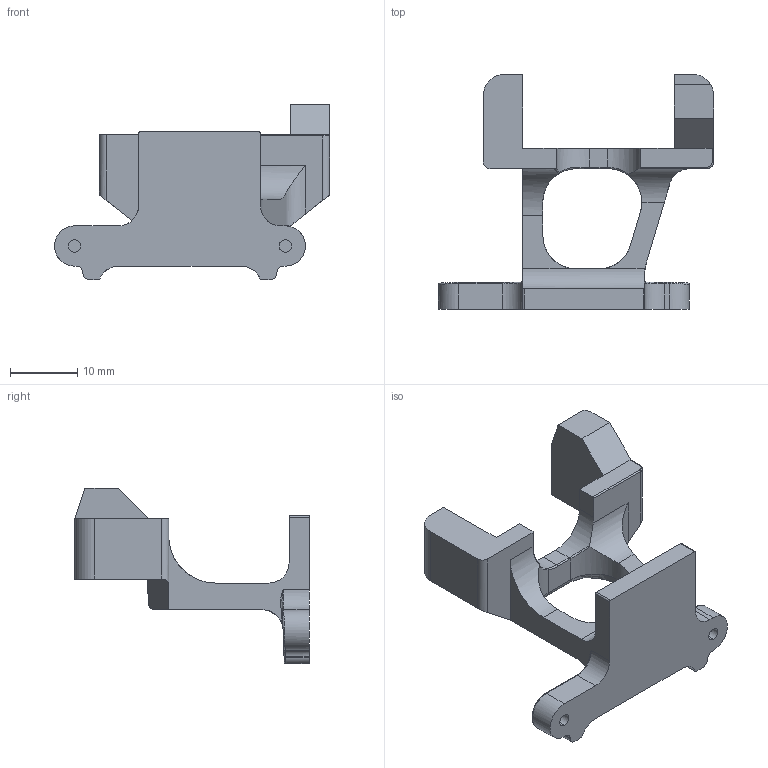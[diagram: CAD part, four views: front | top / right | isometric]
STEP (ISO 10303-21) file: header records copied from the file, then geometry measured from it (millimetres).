
FILE_DESCRIPTION (( 'STEP AP214' ), '1' );
FILE_NAME ('CAMTILT-P-SERVO-MOUNT-R3.STEP', '2018-06-21T18:55:19', ( '' ), ( '' ), 'SwSTEP 2.0', 'SolidWorks 2016', '' );
FILE_SCHEMA (( 'AUTOMOTIVE_DESIGN' ));
Length unit declared in the file: millimetre
Products named in the file (1): CAMTILT-P-SERVO-MOUNT-R3
Bounding box: 41 x 34.95 x 26.1 mm (x, y, z)
Volume: 4792.8 mm3; surface area: 3634.3 mm2
Topology: 1 solids, 1 shells, 128 faces, 334 edges, 208 vertices
Faces by surface type: cylinder 55, plane 50, bspline 18, torus 5
Entity records: 4511 total; most frequent: CARTESIAN_POINT 1487, ORIENTED_EDGE 664, DIRECTION 595, EDGE_CURVE 332, AXIS2_PLACEMENT_3D 211, VERTEX_POINT 208, VECTOR 173, LINE 173
